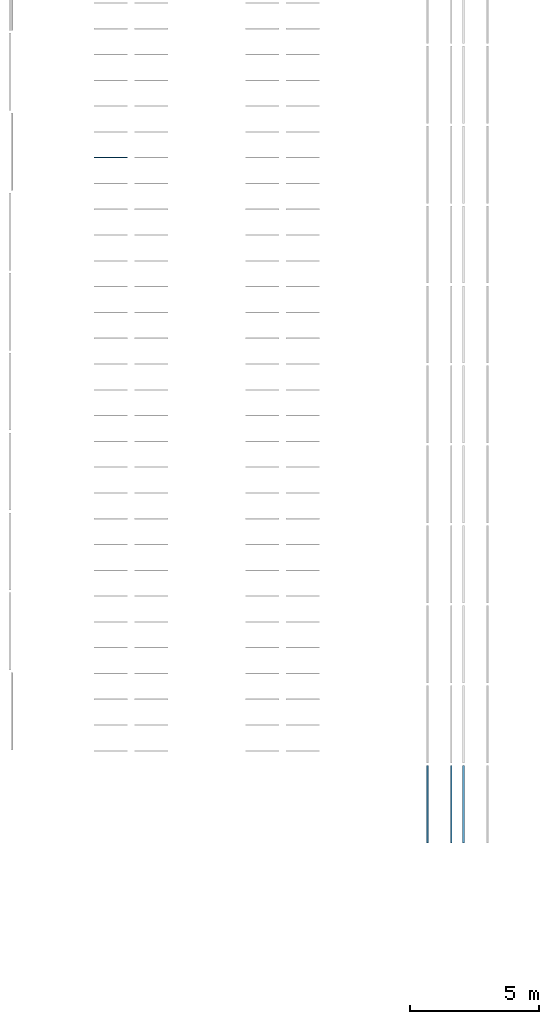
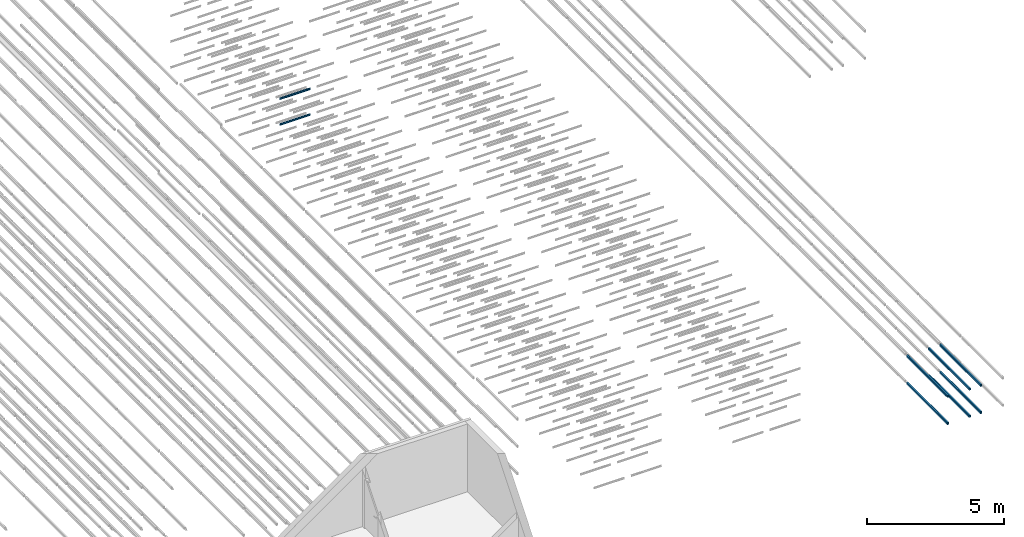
# One storey, part 95 of 290: 8 beams.
"""IFC2X3 building model written with IfcOpenShell, lengths in metres."""

from ifc_helpers import new_model, entity, si_unit, converted_unit, derived_unit, direction, frame, frame_2d, origin, place, context, subcontext, project, spatial, polyline, circle_curve, parameter, trimmed, segment, composite_curve, outline, extrude, material, type_object, element, save


model = new_model("IFC2X3")

# Units and contexts
model_context = context("Model", 3, precision=1e-05, world=origin(), true_north=direction((6.12303176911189e-17, 1.0)))
body_context = subcontext(model_context, "Body", "Model", "MODEL_VIEW")
ifc_project = project(units=[si_unit("LENGTHUNIT", "METRE"), si_unit("AREAUNIT", "SQUARE_METRE"), si_unit("VOLUMEUNIT", "CUBIC_METRE"), converted_unit("PLANEANGLEUNIT", "DEGREE", entity("IfcRatioMeasure", 0.0174532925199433), si_unit("PLANEANGLEUNIT", "RADIAN"), dimensions=[0, 0, 0, 0, 0, 0, 0]), si_unit("MASSUNIT", "GRAM", prefix="KILO"), derived_unit("MASSDENSITYUNIT", [(si_unit("MASSUNIT", "GRAM", prefix="KILO"), 1), (si_unit("LENGTHUNIT", "METRE"), -3)]), derived_unit("MOMENTOFINERTIAUNIT", [(si_unit("LENGTHUNIT", "METRE"), 4)]), si_unit("TIMEUNIT", "SECOND"), si_unit("FREQUENCYUNIT", "HERTZ"), si_unit("THERMODYNAMICTEMPERATUREUNIT", "DEGREE_CELSIUS"), derived_unit("THERMALTRANSMITTANCEUNIT", [(si_unit("MASSUNIT", "GRAM", prefix="KILO"), 1), (si_unit("THERMODYNAMICTEMPERATUREUNIT", "KELVIN"), -1), (si_unit("TIMEUNIT", "SECOND"), -3)]), derived_unit("VOLUMETRICFLOWRATEUNIT", [(si_unit("LENGTHUNIT", "METRE"), 3), (si_unit("TIMEUNIT", "SECOND"), -1)]), si_unit("ELECTRICCURRENTUNIT", "AMPERE"), si_unit("ELECTRICVOLTAGEUNIT", "VOLT"), si_unit("POWERUNIT", "WATT"), si_unit("FORCEUNIT", "NEWTON", prefix="KILO"), si_unit("ILLUMINANCEUNIT", "LUX"), si_unit("LUMINOUSFLUXUNIT", "LUMEN"), si_unit("LUMINOUSINTENSITYUNIT", "CANDELA"), derived_unit("USERDEFINED", [(si_unit("MASSUNIT", "GRAM", prefix="KILO"), -1), (si_unit("LENGTHUNIT", "METRE"), -2), (si_unit("TIMEUNIT", "SECOND"), 3), (si_unit("LUMINOUSFLUXUNIT", "LUMEN"), 1)]), derived_unit("LINEARVELOCITYUNIT", [(si_unit("LENGTHUNIT", "METRE"), 1), (si_unit("TIMEUNIT", "SECOND"), -1)]), si_unit("PRESSUREUNIT", "PASCAL"), derived_unit("USERDEFINED", [(si_unit("LENGTHUNIT", "METRE"), -2), (si_unit("MASSUNIT", "GRAM", prefix="KILO"), 1), (si_unit("TIMEUNIT", "SECOND"), -2)]), derived_unit("LINEARFORCEUNIT", [(si_unit("MASSUNIT", "GRAM", prefix="KILO"), 1), (si_unit("LENGTHUNIT", "METRE"), 1), (si_unit("TIMEUNIT", "SECOND"), -2), (si_unit("LENGTHUNIT", "METRE"), -1)]), derived_unit("PLANARFORCEUNIT", [(si_unit("MASSUNIT", "GRAM", prefix="KILO"), 1), (si_unit("LENGTHUNIT", "METRE"), 1), (si_unit("TIMEUNIT", "SECOND"), -2), (si_unit("LENGTHUNIT", "METRE"), -2)])], contexts=[model_context])

# Site, building, storey
site_placement = place(None, origin())
site = spatial("IfcSite", under=ifc_project, at=site_placement, Name="Default", CompositionType="ELEMENT")
building_placement = place(site_placement, origin())
building = spatial("IfcBuilding", under=site, at=building_placement, CompositionType="ELEMENT")
storey_placement = place(building_placement, frame((0.0, 0.0, 4.0)))
storey = spatial("IfcBuildingStorey", under=building, at=storey_placement, Name="01_OG", CompositionType="ELEMENT", Elevation=4.0)

# Beams
ifc_material_1 = material(Name="Metall - Baustahl S235 blau")
beam_type_1 = type_object("IfcBeamType", Name="RHS Träger (EN 10219-2):RHS 100 x 75 x 5", PredefinedType="NOTDEFINED")
beam_1_placement = place(storey_placement, frame((-159.118311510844, 20.4480889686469, 0.0150000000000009), z_axis=(0.0, 0.0, 1.0), x_axis=(0.0, 1.0, 0.0)))
element("IfcBeam", 1, at=beam_1_placement, inside=storey, type_object=beam_type_1, material=ifc_material_1, Name="RHS Träger (EN 10219-2):RHS 100 x 75 x 5", ObjectType="RHS Träger (EN 10219-2):RHS 100 x 75 x 5", context=body_context, shape_type="SweptSolid", body=[
    extrude(outline(composite_curve([segment(trimmed(circle_curve(frame_2d((-0.0274999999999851, -0.0400000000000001), x_axis=(1.0, 0.0)), 0.01), [parameter(180.0)], [parameter(270.0)], True, "PARAMETER"), True, "CONTINUOUS"), segment(polyline([(-0.0274999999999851, -0.05), (0.0274999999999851, -0.05)]), True, "CONTINUOUS"), segment(trimmed(circle_curve(frame_2d((0.0274999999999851, -0.0400000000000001), x_axis=(1.0, 0.0)), 0.01), [parameter(270.0)], [parameter(5.08888749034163e-14)], True, "PARAMETER"), True, "CONTINUOUS"), segment(polyline([(0.0375000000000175, -0.0400000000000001), (0.0375000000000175, 0.0400000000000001)]), True, "CONTINUOUS"), segment(trimmed(circle_curve(frame_2d((0.0274999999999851, 0.0400000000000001), x_axis=(1.0, 0.0)), 0.01), [parameter(360.0)], [parameter(89.9999999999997)], True, "PARAMETER"), True, "CONTINUOUS"), segment(polyline([(0.0274999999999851, 0.05), (-0.0274999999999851, 0.05)]), True, "CONTINUOUS"), segment(trimmed(circle_curve(frame_2d((-0.0274999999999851, 0.0400000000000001), x_axis=(1.0, 0.0)), 0.01), [parameter(90.0000000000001)], [parameter(180.0)], True, "PARAMETER"), True, "CONTINUOUS"), segment(polyline([(-0.0374999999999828, 0.0400000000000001), (-0.0374999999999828, -0.0400000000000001)]), True, "CONTINUOUS")], self_intersect=False), holes=[composite_curve([segment(polyline([(0.0274999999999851, -0.0450000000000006), (-0.0274999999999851, -0.0450000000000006)]), True, "CONTINUOUS"), segment(trimmed(circle_curve(frame_2d((-0.0274999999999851, -0.0400000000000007), x_axis=(1.0, 0.0)), 0.005), [parameter(180.0)], [parameter(270.0)], True, "PARAMETER"), False, "CONTINUOUS"), segment(polyline([(-0.0325000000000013, -0.0400000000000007), (-0.0325000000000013, 0.039999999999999)]), True, "CONTINUOUS"), segment(trimmed(circle_curve(frame_2d((-0.0274999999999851, 0.039999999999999), x_axis=(1.0, 0.0)), 0.005), [parameter(90.0000000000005)], [parameter(180.0)], True, "PARAMETER"), False, "CONTINUOUS"), segment(polyline([(-0.0274999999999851, 0.044999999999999), (0.0274999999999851, 0.044999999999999)]), True, "CONTINUOUS"), segment(trimmed(circle_curve(frame_2d((0.0274999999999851, 0.039999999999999), x_axis=(1.0, 0.0)), 0.005), [parameter(0.0)], [parameter(90.0000000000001)], True, "PARAMETER"), False, "CONTINUOUS"), segment(polyline([(0.0325000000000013, 0.039999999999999), (0.0325000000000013, -0.0400000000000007)]), True, "CONTINUOUS"), segment(trimmed(circle_curve(frame_2d((0.0274999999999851, -0.0400000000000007), x_axis=(1.0, 0.0)), 0.005), [parameter(270.0)], [parameter(4.07110999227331e-13)], True, "PARAMETER"), False, "CONTINUOUS")], self_intersect=False)]), frame((0.000100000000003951, 0.0375000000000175, -0.0500000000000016), z_axis=(1.0, 0.0, 0.0), x_axis=(0.0, -1.0, 0.0)), (0.0, 0.0, 1.0), 2.9998),
])
beam_2_placement = place(storey_placement, frame((-158.268311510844, 20.4480889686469, 0.0150000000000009), z_axis=(0.0, 0.0, 1.0), x_axis=(0.0, 1.0, 0.0)))
element("IfcBeam", 2, at=beam_2_placement, inside=storey, type_object=beam_type_1, material=ifc_material_1, Name="RHS Träger (EN 10219-2):RHS 100 x 75 x 5", ObjectType="RHS Träger (EN 10219-2):RHS 100 x 75 x 5", context=body_context, shape_type="SweptSolid", body=[
    extrude(outline(composite_curve([segment(polyline([(-0.0400000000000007, -0.0375000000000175), (0.0399999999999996, -0.0375000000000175)]), True, "CONTINUOUS"), segment(trimmed(circle_curve(frame_2d((0.0399999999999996, -0.0275000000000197), x_axis=(0.0, 1.0)), 0.01), [parameter(180.0)], [parameter(270.0)], True, "PARAMETER"), True, "CONTINUOUS"), segment(polyline([(0.0499999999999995, -0.0275000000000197), (0.0499999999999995, 0.0274999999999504)]), True, "CONTINUOUS"), segment(trimmed(circle_curve(frame_2d((0.0399999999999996, 0.0274999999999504), x_axis=(0.0, 1.0)), 0.01), [parameter(270.0)], [parameter(4.07110999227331e-13)], True, "PARAMETER"), True, "CONTINUOUS"), segment(polyline([(0.0399999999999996, 0.0374999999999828), (-0.0400000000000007, 0.0374999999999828)]), True, "CONTINUOUS"), segment(trimmed(circle_curve(frame_2d((-0.0400000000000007, 0.0274999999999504), x_axis=(0.0, 1.0)), 0.01), [parameter(360.0)], [parameter(90.0000000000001)], True, "PARAMETER"), True, "CONTINUOUS"), segment(polyline([(-0.0500000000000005, 0.0274999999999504), (-0.0500000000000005, -0.0275000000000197)]), True, "CONTINUOUS"), segment(trimmed(circle_curve(frame_2d((-0.0400000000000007, -0.0275000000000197), x_axis=(0.0, 1.0)), 0.01), [parameter(90.0000000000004)], [parameter(180.0)], True, "PARAMETER"), True, "CONTINUOUS")], self_intersect=False), holes=[composite_curve([segment(trimmed(circle_curve(frame_2d((-0.0400000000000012, 0.0274999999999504), x_axis=(0.0, 1.0)), 0.005), [parameter(360.0)], [parameter(89.9999999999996)], True, "PARAMETER"), False, "CONTINUOUS"), segment(polyline([(-0.0400000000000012, 0.0324999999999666), (0.0399999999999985, 0.0324999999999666)]), True, "CONTINUOUS"), segment(trimmed(circle_curve(frame_2d((0.0399999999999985, 0.0274999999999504), x_axis=(0.0, 1.0)), 0.005), [parameter(270.0)], [parameter(0.0)], True, "PARAMETER"), False, "CONTINUOUS"), segment(polyline([(0.0449999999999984, 0.0274999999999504), (0.0449999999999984, -0.0275000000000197)]), True, "CONTINUOUS"), segment(trimmed(circle_curve(frame_2d((0.0399999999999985, -0.0275000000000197), x_axis=(0.0, 1.0)), 0.005), [parameter(180.0)], [parameter(269.999999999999)], True, "PARAMETER"), False, "CONTINUOUS"), segment(polyline([(0.0399999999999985, -0.0325000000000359), (-0.0400000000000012, -0.0325000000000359)]), True, "CONTINUOUS"), segment(trimmed(circle_curve(frame_2d((-0.0400000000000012, -0.0275000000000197), x_axis=(0.0, 1.0)), 0.005), [parameter(90.0000000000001)], [parameter(180.0)], True, "PARAMETER"), False, "CONTINUOUS"), segment(polyline([(-0.0450000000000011, -0.0275000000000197), (-0.0450000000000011, 0.0274999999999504)]), True, "CONTINUOUS")], self_intersect=False)]), frame((9.99999999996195e-05, -0.0374999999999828, -0.0500000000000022), z_axis=(1.0, 0.0, 0.0), x_axis=(0.0, 0.0, -1.0)), (0.0, 0.0, 1.0), 2.9998),
])
beam_3_placement = place(storey_placement, frame((-157.718311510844, 20.4480889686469, 0.0150000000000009), z_axis=(0.0, 0.0, 1.0), x_axis=(0.0, 1.0, 0.0)))
element("IfcBeam", 3, at=beam_3_placement, inside=storey, type_object=beam_type_1, material=ifc_material_1, Name="RHS Träger (EN 10219-2):RHS 100 x 75 x 5", ObjectType="RHS Träger (EN 10219-2):RHS 100 x 75 x 5", context=body_context, shape_type="SweptSolid", body=[
    extrude(outline(composite_curve([segment(trimmed(circle_curve(frame_2d((-0.0274999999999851, -0.0400000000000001), x_axis=(1.0, 0.0)), 0.01), [parameter(180.0)], [parameter(270.0)], True, "PARAMETER"), True, "CONTINUOUS"), segment(polyline([(-0.0274999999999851, -0.05), (0.0274999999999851, -0.05)]), True, "CONTINUOUS"), segment(trimmed(circle_curve(frame_2d((0.0274999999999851, -0.0400000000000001), x_axis=(1.0, 0.0)), 0.01), [parameter(270.0)], [parameter(5.08888749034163e-14)], True, "PARAMETER"), True, "CONTINUOUS"), segment(polyline([(0.0375000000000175, -0.0400000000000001), (0.0375000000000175, 0.0400000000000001)]), True, "CONTINUOUS"), segment(trimmed(circle_curve(frame_2d((0.0274999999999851, 0.0400000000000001), x_axis=(1.0, 0.0)), 0.01), [parameter(360.0)], [parameter(89.9999999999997)], True, "PARAMETER"), True, "CONTINUOUS"), segment(polyline([(0.0274999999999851, 0.05), (-0.0274999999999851, 0.05)]), True, "CONTINUOUS"), segment(trimmed(circle_curve(frame_2d((-0.0274999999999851, 0.0400000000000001), x_axis=(1.0, 0.0)), 0.01), [parameter(90.0000000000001)], [parameter(180.0)], True, "PARAMETER"), True, "CONTINUOUS"), segment(polyline([(-0.0374999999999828, 0.0400000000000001), (-0.0374999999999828, -0.0400000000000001)]), True, "CONTINUOUS")], self_intersect=False), holes=[composite_curve([segment(polyline([(0.0274999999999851, -0.0450000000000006), (-0.0274999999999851, -0.0450000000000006)]), True, "CONTINUOUS"), segment(trimmed(circle_curve(frame_2d((-0.0274999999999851, -0.0400000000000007), x_axis=(1.0, 0.0)), 0.005), [parameter(180.0)], [parameter(270.0)], True, "PARAMETER"), False, "CONTINUOUS"), segment(polyline([(-0.0325000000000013, -0.0400000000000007), (-0.0325000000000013, 0.039999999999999)]), True, "CONTINUOUS"), segment(trimmed(circle_curve(frame_2d((-0.0274999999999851, 0.039999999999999), x_axis=(1.0, 0.0)), 0.005), [parameter(90.0000000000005)], [parameter(180.0)], True, "PARAMETER"), False, "CONTINUOUS"), segment(polyline([(-0.0274999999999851, 0.044999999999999), (0.0274999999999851, 0.044999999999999)]), True, "CONTINUOUS"), segment(trimmed(circle_curve(frame_2d((0.0274999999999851, 0.039999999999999), x_axis=(1.0, 0.0)), 0.005), [parameter(0.0)], [parameter(90.0000000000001)], True, "PARAMETER"), False, "CONTINUOUS"), segment(polyline([(0.0325000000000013, 0.039999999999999), (0.0325000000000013, -0.0400000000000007)]), True, "CONTINUOUS"), segment(trimmed(circle_curve(frame_2d((0.0274999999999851, -0.0400000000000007), x_axis=(1.0, 0.0)), 0.005), [parameter(270.0)], [parameter(4.07110999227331e-13)], True, "PARAMETER"), False, "CONTINUOUS")], self_intersect=False)]), frame((0.000100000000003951, 0.0375000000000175, -0.0500000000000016), z_axis=(1.0, 0.0, 0.0), x_axis=(0.0, -1.0, 0.0)), (0.0, 0.0, 1.0), 2.9998),
])
beam_4_placement = place(storey_placement, frame((-159.118311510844, 20.4480889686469, -1.2), z_axis=(0.0, 0.0, 1.0), x_axis=(0.0, 1.0, 0.0)))
element("IfcBeam", 4, at=beam_4_placement, inside=storey, type_object=beam_type_1, material=ifc_material_1, Name="RHS Träger (EN 10219-2):RHS 100 x 75 x 5", ObjectType="RHS Träger (EN 10219-2):RHS 100 x 75 x 5", context=body_context, shape_type="SweptSolid", body=[
    extrude(outline(composite_curve([segment(trimmed(circle_curve(frame_2d((-0.0274999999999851, -0.0400000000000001), x_axis=(1.0, 0.0)), 0.01), [parameter(180.0)], [parameter(270.0)], True, "PARAMETER"), True, "CONTINUOUS"), segment(polyline([(-0.0274999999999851, -0.05), (0.0274999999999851, -0.05)]), True, "CONTINUOUS"), segment(trimmed(circle_curve(frame_2d((0.0274999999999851, -0.0400000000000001), x_axis=(1.0, 0.0)), 0.01), [parameter(270.0)], [parameter(5.08888749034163e-14)], True, "PARAMETER"), True, "CONTINUOUS"), segment(polyline([(0.0375000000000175, -0.0400000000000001), (0.0375000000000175, 0.0400000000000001)]), True, "CONTINUOUS"), segment(trimmed(circle_curve(frame_2d((0.0274999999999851, 0.0400000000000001), x_axis=(1.0, 0.0)), 0.01), [parameter(360.0)], [parameter(89.9999999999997)], True, "PARAMETER"), True, "CONTINUOUS"), segment(polyline([(0.0274999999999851, 0.05), (-0.0274999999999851, 0.05)]), True, "CONTINUOUS"), segment(trimmed(circle_curve(frame_2d((-0.0274999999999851, 0.0400000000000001), x_axis=(1.0, 0.0)), 0.01), [parameter(90.0000000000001)], [parameter(180.0)], True, "PARAMETER"), True, "CONTINUOUS"), segment(polyline([(-0.0374999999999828, 0.0400000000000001), (-0.0374999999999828, -0.0400000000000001)]), True, "CONTINUOUS")], self_intersect=False), holes=[composite_curve([segment(polyline([(0.0274999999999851, -0.0450000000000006), (-0.0274999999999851, -0.0450000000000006)]), True, "CONTINUOUS"), segment(trimmed(circle_curve(frame_2d((-0.0274999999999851, -0.0400000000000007), x_axis=(1.0, 0.0)), 0.005), [parameter(180.0)], [parameter(270.0)], True, "PARAMETER"), False, "CONTINUOUS"), segment(polyline([(-0.0325000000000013, -0.0400000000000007), (-0.0325000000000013, 0.039999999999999)]), True, "CONTINUOUS"), segment(trimmed(circle_curve(frame_2d((-0.0274999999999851, 0.039999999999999), x_axis=(1.0, 0.0)), 0.005), [parameter(90.0000000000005)], [parameter(180.0)], True, "PARAMETER"), False, "CONTINUOUS"), segment(polyline([(-0.0274999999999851, 0.044999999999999), (0.0274999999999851, 0.044999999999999)]), True, "CONTINUOUS"), segment(trimmed(circle_curve(frame_2d((0.0274999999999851, 0.039999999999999), x_axis=(1.0, 0.0)), 0.005), [parameter(0.0)], [parameter(90.0000000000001)], True, "PARAMETER"), False, "CONTINUOUS"), segment(polyline([(0.0325000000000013, 0.039999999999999), (0.0325000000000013, -0.0400000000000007)]), True, "CONTINUOUS"), segment(trimmed(circle_curve(frame_2d((0.0274999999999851, -0.0400000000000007), x_axis=(1.0, 0.0)), 0.005), [parameter(270.0)], [parameter(4.07110999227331e-13)], True, "PARAMETER"), False, "CONTINUOUS")], self_intersect=False)]), frame((0.000100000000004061, 0.0375000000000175, -0.0500000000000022), z_axis=(1.0, 0.0, 0.0), x_axis=(0.0, -1.0, 0.0)), (0.0, 0.0, 1.0), 2.9998),
])
beam_5_placement = place(storey_placement, frame((-158.268311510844, 20.4480889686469, -1.2), z_axis=(0.0, 0.0, 1.0), x_axis=(0.0, 1.0, 0.0)))
element("IfcBeam", 5, at=beam_5_placement, inside=storey, type_object=beam_type_1, material=ifc_material_1, Name="RHS Träger (EN 10219-2):RHS 100 x 75 x 5", ObjectType="RHS Träger (EN 10219-2):RHS 100 x 75 x 5", context=body_context, shape_type="SweptSolid", body=[
    extrude(outline(composite_curve([segment(polyline([(-0.0400000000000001, -0.0375000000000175), (0.0400000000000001, -0.0375000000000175)]), True, "CONTINUOUS"), segment(trimmed(circle_curve(frame_2d((0.0400000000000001, -0.0275000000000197), x_axis=(0.0, 1.0)), 0.01), [parameter(180.0)], [parameter(270.0)], True, "PARAMETER"), True, "CONTINUOUS"), segment(polyline([(0.05, -0.0275000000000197), (0.05, 0.0274999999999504)]), True, "CONTINUOUS"), segment(trimmed(circle_curve(frame_2d((0.0400000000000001, 0.0274999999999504), x_axis=(0.0, 1.0)), 0.01), [parameter(270.0)], [parameter(4.07110999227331e-13)], True, "PARAMETER"), True, "CONTINUOUS"), segment(polyline([(0.0400000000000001, 0.0374999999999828), (-0.0400000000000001, 0.0374999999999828)]), True, "CONTINUOUS"), segment(trimmed(circle_curve(frame_2d((-0.0400000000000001, 0.0274999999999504), x_axis=(0.0, 1.0)), 0.01), [parameter(360.0)], [parameter(90.0000000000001)], True, "PARAMETER"), True, "CONTINUOUS"), segment(polyline([(-0.05, 0.0274999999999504), (-0.05, -0.0275000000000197)]), True, "CONTINUOUS"), segment(trimmed(circle_curve(frame_2d((-0.0400000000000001, -0.0275000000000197), x_axis=(0.0, 1.0)), 0.01), [parameter(90.0000000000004)], [parameter(180.0)], True, "PARAMETER"), True, "CONTINUOUS")], self_intersect=False), holes=[composite_curve([segment(trimmed(circle_curve(frame_2d((-0.0400000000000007, 0.0274999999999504), x_axis=(0.0, 1.0)), 0.005), [parameter(360.0)], [parameter(89.9999999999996)], True, "PARAMETER"), False, "CONTINUOUS"), segment(polyline([(-0.0400000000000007, 0.0324999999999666), (0.039999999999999, 0.0324999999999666)]), True, "CONTINUOUS"), segment(trimmed(circle_curve(frame_2d((0.039999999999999, 0.0274999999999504), x_axis=(0.0, 1.0)), 0.005), [parameter(270.0)], [parameter(0.0)], True, "PARAMETER"), False, "CONTINUOUS"), segment(polyline([(0.044999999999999, 0.0274999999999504), (0.044999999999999, -0.0275000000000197)]), True, "CONTINUOUS"), segment(trimmed(circle_curve(frame_2d((0.039999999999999, -0.0275000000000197), x_axis=(0.0, 1.0)), 0.005), [parameter(180.0)], [parameter(269.999999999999)], True, "PARAMETER"), False, "CONTINUOUS"), segment(polyline([(0.039999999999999, -0.0325000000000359), (-0.0400000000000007, -0.0325000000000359)]), True, "CONTINUOUS"), segment(trimmed(circle_curve(frame_2d((-0.0400000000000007, -0.0275000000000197), x_axis=(0.0, 1.0)), 0.005), [parameter(90.0000000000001)], [parameter(180.0)], True, "PARAMETER"), False, "CONTINUOUS"), segment(polyline([(-0.0450000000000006, -0.0275000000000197), (-0.0450000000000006, 0.0274999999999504)]), True, "CONTINUOUS")], self_intersect=False)]), frame((9.99999999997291e-05, -0.0374999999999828, -0.0500000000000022), z_axis=(1.0, 0.0, 0.0), x_axis=(0.0, 0.0, -1.0)), (0.0, 0.0, 1.0), 2.9998),
])
beam_6_placement = place(storey_placement, frame((-157.718311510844, 20.4480889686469, -1.2), z_axis=(0.0, 0.0, 1.0), x_axis=(0.0, 1.0, 0.0)))
element("IfcBeam", 6, at=beam_6_placement, inside=storey, type_object=beam_type_1, material=ifc_material_1, Name="RHS Träger (EN 10219-2):RHS 100 x 75 x 5", ObjectType="RHS Träger (EN 10219-2):RHS 100 x 75 x 5", context=body_context, shape_type="SweptSolid", body=[
    extrude(outline(composite_curve([segment(trimmed(circle_curve(frame_2d((-0.0274999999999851, -0.0400000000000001), x_axis=(1.0, 0.0)), 0.01), [parameter(180.0)], [parameter(270.0)], True, "PARAMETER"), True, "CONTINUOUS"), segment(polyline([(-0.0274999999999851, -0.05), (0.0274999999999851, -0.05)]), True, "CONTINUOUS"), segment(trimmed(circle_curve(frame_2d((0.0274999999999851, -0.0400000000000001), x_axis=(1.0, 0.0)), 0.01), [parameter(270.0)], [parameter(5.08888749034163e-14)], True, "PARAMETER"), True, "CONTINUOUS"), segment(polyline([(0.0375000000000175, -0.0400000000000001), (0.0375000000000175, 0.0400000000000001)]), True, "CONTINUOUS"), segment(trimmed(circle_curve(frame_2d((0.0274999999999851, 0.0400000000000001), x_axis=(1.0, 0.0)), 0.01), [parameter(360.0)], [parameter(89.9999999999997)], True, "PARAMETER"), True, "CONTINUOUS"), segment(polyline([(0.0274999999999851, 0.05), (-0.0274999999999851, 0.05)]), True, "CONTINUOUS"), segment(trimmed(circle_curve(frame_2d((-0.0274999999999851, 0.0400000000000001), x_axis=(1.0, 0.0)), 0.01), [parameter(90.0000000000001)], [parameter(180.0)], True, "PARAMETER"), True, "CONTINUOUS"), segment(polyline([(-0.0374999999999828, 0.0400000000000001), (-0.0374999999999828, -0.0400000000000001)]), True, "CONTINUOUS")], self_intersect=False), holes=[composite_curve([segment(polyline([(0.0274999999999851, -0.0450000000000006), (-0.0274999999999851, -0.0450000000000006)]), True, "CONTINUOUS"), segment(trimmed(circle_curve(frame_2d((-0.0274999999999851, -0.0400000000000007), x_axis=(1.0, 0.0)), 0.005), [parameter(180.0)], [parameter(270.0)], True, "PARAMETER"), False, "CONTINUOUS"), segment(polyline([(-0.0325000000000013, -0.0400000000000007), (-0.0325000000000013, 0.039999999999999)]), True, "CONTINUOUS"), segment(trimmed(circle_curve(frame_2d((-0.0274999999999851, 0.039999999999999), x_axis=(1.0, 0.0)), 0.005), [parameter(90.0000000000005)], [parameter(180.0)], True, "PARAMETER"), False, "CONTINUOUS"), segment(polyline([(-0.0274999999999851, 0.044999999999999), (0.0274999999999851, 0.044999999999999)]), True, "CONTINUOUS"), segment(trimmed(circle_curve(frame_2d((0.0274999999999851, 0.039999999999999), x_axis=(1.0, 0.0)), 0.005), [parameter(0.0)], [parameter(90.0000000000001)], True, "PARAMETER"), False, "CONTINUOUS"), segment(polyline([(0.0325000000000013, 0.039999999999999), (0.0325000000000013, -0.0400000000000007)]), True, "CONTINUOUS"), segment(trimmed(circle_curve(frame_2d((0.0274999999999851, -0.0400000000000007), x_axis=(1.0, 0.0)), 0.005), [parameter(270.0)], [parameter(4.07110999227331e-13)], True, "PARAMETER"), False, "CONTINUOUS")], self_intersect=False)]), frame((0.000100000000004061, 0.0375000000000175, -0.0500000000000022), z_axis=(1.0, 0.0, 0.0), x_axis=(0.0, -1.0, 0.0)), (0.0, 0.0, 1.0), 2.9998),
])
ifc_material_2 = material(Name="Metall - Baustahl S235")
beam_type_2 = type_object("IfcBeamType", Name="IPN Träger:IPN 80", PredefinedType="NOTDEFINED")
beam_7_placement = place(storey_placement, frame((-170.780111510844, 47.0365889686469, 0.570000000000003), z_axis=(0.0, 0.0, 1.0), x_axis=(-1.0, 0.0, 0.0)))
element("IfcBeam", 7, at=beam_7_placement, inside=storey, type_object=beam_type_2, material=ifc_material_2, Name="IPN Träger:IPN 80", ObjectType="IPN Träger:IPN 80", context=body_context, shape_type="SweptSolid", body=[
    extrude(outline(composite_curve([segment(polyline([(0.0375704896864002, -0.0209999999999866), (0.0399999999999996, -0.0209999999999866)]), True, "CONTINUOUS"), segment(polyline([(0.0399999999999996, -0.0209999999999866), (0.0399999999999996, 0.0210000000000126)]), True, "CONTINUOUS"), segment(polyline([(0.0399999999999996, 0.0210000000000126), (0.0375704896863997, 0.0210000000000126)]), True, "CONTINUOUS"), segment(trimmed(circle_curve(frame_2d((0.0375704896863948, 0.0187000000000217), x_axis=(0.0, 1.0)), 0.00229999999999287), [parameter(0.0)], [parameter(82.0300000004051)], True, "PARAMETER"), True, "CONTINUOUS"), segment(polyline([(0.0352927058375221, 0.0190189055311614), (0.0333732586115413, 0.00530924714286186)]), True, "CONTINUOUS"), segment(trimmed(circle_curve(frame_2d((0.0295109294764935, 0.00585000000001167), x_axis=(0.99034080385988, -0.138654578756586)), 0.00389999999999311), [parameter(277.969999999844)], [parameter(0.0)], True, "PARAMETER"), False, "CONTINUOUS"), segment(polyline([(0.0295109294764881, 0.00195000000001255), (-0.029510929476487, 0.00195000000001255)]), True, "CONTINUOUS"), segment(trimmed(circle_curve(frame_2d((-0.0295109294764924, 0.00585000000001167), x_axis=(0.0, -1.0)), 0.00389999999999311), [parameter(277.969999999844)], [parameter(0.0)], True, "PARAMETER"), False, "CONTINUOUS"), segment(polyline([(-0.0333732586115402, 0.00530924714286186), (-0.035292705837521, 0.0190189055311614)]), True, "CONTINUOUS"), segment(trimmed(circle_curve(frame_2d((-0.0375704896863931, 0.0187000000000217), x_axis=(0.990340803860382, 0.138654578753)), 0.00229999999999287), [parameter(0.0)], [parameter(82.0300000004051)], True, "PARAMETER"), True, "CONTINUOUS"), segment(polyline([(-0.0375704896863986, 0.0210000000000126), (-0.0400000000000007, 0.0210000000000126)]), True, "CONTINUOUS"), segment(polyline([(-0.0400000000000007, 0.0210000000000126), (-0.0400000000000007, -0.0209999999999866)]), True, "CONTINUOUS"), segment(polyline([(-0.0400000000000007, -0.0209999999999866), (-0.0375704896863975, -0.0209999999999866)]), True, "CONTINUOUS"), segment(trimmed(circle_curve(frame_2d((-0.0375704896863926, -0.0186999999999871), x_axis=(0.0, -1.0)), 0.00229999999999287), [parameter(0.0)], [parameter(82.0300000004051)], True, "PARAMETER"), True, "CONTINUOUS"), segment(polyline([(-0.0352927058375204, -0.0190189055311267), (-0.0333732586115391, -0.00530924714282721)]), True, "CONTINUOUS"), segment(trimmed(circle_curve(frame_2d((-0.0295109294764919, -0.00584999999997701), x_axis=(-0.99034080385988, 0.138654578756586)), 0.00389999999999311), [parameter(277.969999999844)], [parameter(0.0)], True, "PARAMETER"), False, "CONTINUOUS"), segment(polyline([(-0.0295109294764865, -0.00194999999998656), (0.0295109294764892, -0.00194999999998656)]), True, "CONTINUOUS"), segment(trimmed(circle_curve(frame_2d((0.0295109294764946, -0.00584999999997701), x_axis=(0.0, 1.0)), 0.00389999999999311), [parameter(277.969999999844)], [parameter(0.0)], True, "PARAMETER"), False, "CONTINUOUS"), segment(polyline([(0.0333732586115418, -0.00530924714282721), (0.0352927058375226, -0.0190189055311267)]), True, "CONTINUOUS"), segment(trimmed(circle_curve(frame_2d((0.0375704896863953, -0.0186999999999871), x_axis=(-0.990340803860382, -0.138654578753)), 0.00229999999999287), [parameter(0.0)], [parameter(82.0300000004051)], True, "PARAMETER"), True, "CONTINUOUS")], self_intersect=False)), frame((0.000100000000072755, 0.0209999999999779, -0.0400000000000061), z_axis=(1.0, 0.0, 0.0), x_axis=(0.0, 0.0, -1.0)), (0.0, 0.0, 1.0), 1.29990000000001),
])
beam_8_placement = place(storey_placement, frame((-170.780111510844, 47.0365889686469, 1.72), z_axis=(0.0, 0.0, 1.0), x_axis=(-1.0, 0.0, 0.0)))
element("IfcBeam", 8, at=beam_8_placement, inside=storey, type_object=beam_type_2, material=ifc_material_2, Name="IPN Träger:IPN 80", ObjectType="IPN Träger:IPN 80", context=body_context, shape_type="SweptSolid", body=[
    extrude(outline(composite_curve([segment(polyline([(0.0375704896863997, -0.0209999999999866), (0.0399999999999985, -0.0209999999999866)]), True, "CONTINUOUS"), segment(polyline([(0.0399999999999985, -0.0209999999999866), (0.0399999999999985, 0.0210000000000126)]), True, "CONTINUOUS"), segment(polyline([(0.0399999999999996, 0.0210000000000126), (0.0375704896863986, 0.0210000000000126)]), True, "CONTINUOUS"), segment(trimmed(circle_curve(frame_2d((0.0375704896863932, 0.0187000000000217), x_axis=(0.0, 1.0)), 0.0022999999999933), [parameter(0.0)], [parameter(82.0300000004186)], True, "PARAMETER"), True, "CONTINUOUS"), segment(polyline([(0.0352927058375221, 0.0190189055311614), (0.0333732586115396, 0.00530924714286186)]), True, "CONTINUOUS"), segment(trimmed(circle_curve(frame_2d((0.029510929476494, 0.00585000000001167), x_axis=(0.990340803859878, -0.138654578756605)), 0.00389999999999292), [parameter(277.969999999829)], [parameter(0.0)], True, "PARAMETER"), False, "CONTINUOUS"), segment(polyline([(0.0295109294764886, 0.00195000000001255), (-0.0295109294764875, 0.00195000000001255)]), True, "CONTINUOUS"), segment(trimmed(circle_curve(frame_2d((-0.029510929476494, 0.00585000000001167), x_axis=(0.0, -1.0)), 0.00389999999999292), [parameter(277.969999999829)], [parameter(0.0)], True, "PARAMETER"), False, "CONTINUOUS"), segment(polyline([(-0.0333732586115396, 0.00530924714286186), (-0.0352927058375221, 0.0190189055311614)]), True, "CONTINUOUS"), segment(trimmed(circle_curve(frame_2d((-0.0375704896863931, 0.0187000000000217), x_axis=(0.990340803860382, 0.138654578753)), 0.0022999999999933), [parameter(0.0)], [parameter(82.0300000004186)], True, "PARAMETER"), True, "CONTINUOUS"), segment(polyline([(-0.0375704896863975, 0.0210000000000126), (-0.0400000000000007, 0.0210000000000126)]), True, "CONTINUOUS"), segment(polyline([(-0.0400000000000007, 0.0210000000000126), (-0.0400000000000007, -0.0209999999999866)]), True, "CONTINUOUS"), segment(polyline([(-0.0400000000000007, -0.0209999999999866), (-0.0375704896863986, -0.0209999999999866)]), True, "CONTINUOUS"), segment(trimmed(circle_curve(frame_2d((-0.0375704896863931, -0.0186999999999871), x_axis=(0.0, -1.0)), 0.0022999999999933), [parameter(0.0)], [parameter(82.0300000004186)], True, "PARAMETER"), True, "CONTINUOUS"), segment(polyline([(-0.035292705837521, -0.0190189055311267), (-0.0333732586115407, -0.00530924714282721)]), True, "CONTINUOUS"), segment(trimmed(circle_curve(frame_2d((-0.029510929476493, -0.00584999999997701), x_axis=(-0.990340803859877, 0.138654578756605)), 0.00389999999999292), [parameter(277.969999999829)], [parameter(0.0)], True, "PARAMETER"), False, "CONTINUOUS"), segment(polyline([(-0.0295109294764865, -0.00194999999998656), (0.0295109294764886, -0.00194999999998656)]), True, "CONTINUOUS"), segment(trimmed(circle_curve(frame_2d((0.0295109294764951, -0.00584999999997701), x_axis=(0.0, 1.0)), 0.00389999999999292), [parameter(277.969999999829)], [parameter(0.0)], True, "PARAMETER"), False, "CONTINUOUS"), segment(polyline([(0.0333732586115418, -0.00530924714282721), (0.0352927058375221, -0.0190189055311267)]), True, "CONTINUOUS"), segment(trimmed(circle_curve(frame_2d((0.0375704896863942, -0.0186999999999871), x_axis=(-0.990340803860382, -0.138654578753)), 0.0022999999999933), [parameter(0.0)], [parameter(82.0300000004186)], True, "PARAMETER"), True, "CONTINUOUS")], self_intersect=False)), frame((0.000100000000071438, 0.0209999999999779, -0.040000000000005), z_axis=(1.0, 0.0, 0.0), x_axis=(0.0, 0.0, -1.0)), (0.0, 0.0, 1.0), 1.29990000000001),
])

save(model, "model.ifc")
